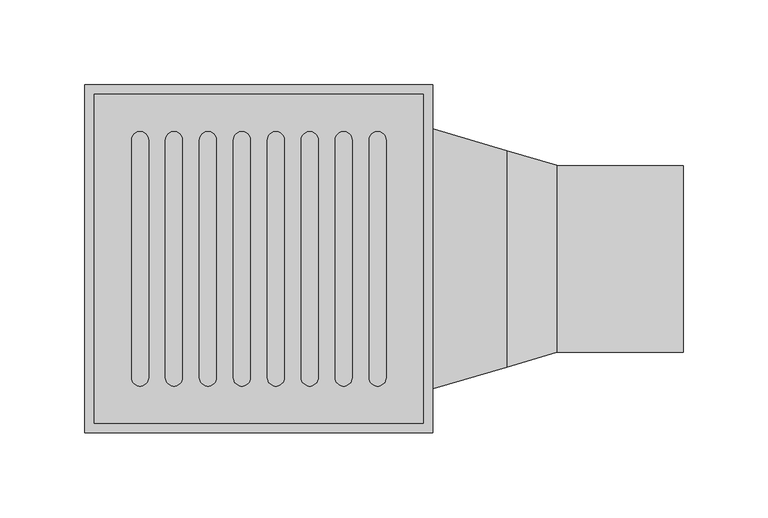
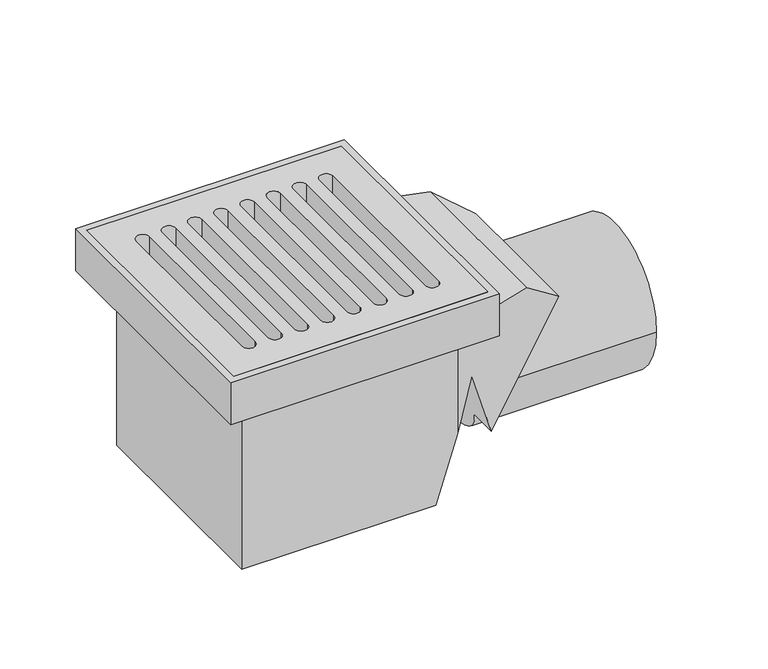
"""IFC4 building model written with IfcOpenShell, lengths in millimetres: sanitary terminal geometry, PF_ST_UN_57540_Siphon Fonte CADRE SORTIE DN100_ACO : PF_ST_UN_57540_Siphon Fonte CADRE SORTIE DN100_ACO."""

from ifc_helpers import new_model, si_unit, point, frame, frame_2d, origin, place, context, project, spatial, polyline, circle_curve, ellipse_curve, trimmed, segment, composite_curve, outline, extrude, source, transform, mapped, element, save
from ifc_brep_helpers import plane_surface, cylinder_surface, revolved_surface, advanced_brep


def sanitary_terminal_1e6d54b3(model_context):
    return source(origin(), model_context, "Body", "SolidModel", [
        extrude(outline(polyline([(97.0, 97.0), (97.0, -97.0), (-97.0, -97.0), (-97.0, 97.0), (97.0, 97.0)]), holes=[composite_curve([segment(trimmed(circle_curve(frame_2d((10.0, -70.0)), 5.0), [point((5.0, -70.0))], [point((15.0, -70.0))], True, "CARTESIAN"), True, "CONTINUOUS"), segment(polyline([(15.0, -70.0), (15.0, 70.0)]), True, "CONTINUOUS"), segment(trimmed(circle_curve(frame_2d((10.0, 70.0)), 5.0), [point((15.0, 70.0))], [point((5.0, 70.0))], True, "CARTESIAN"), True, "CONTINUOUS"), segment(polyline([(5.0, 70.0), (5.0, -70.0)]), True, "CONTINUOUS")], self_intersect=False), composite_curve([segment(trimmed(circle_curve(frame_2d((30.0, -70.0)), 5.0), [point((25.0, -70.0))], [point((35.0, -70.0))], True, "CARTESIAN"), True, "CONTINUOUS"), segment(polyline([(35.0, -70.0), (35.0, 70.0)]), True, "CONTINUOUS"), segment(trimmed(circle_curve(frame_2d((30.0, 70.0)), 5.0), [point((35.0, 70.0))], [point((25.0, 70.0))], True, "CARTESIAN"), True, "CONTINUOUS"), segment(polyline([(25.0, 70.0), (25.0, -70.0)]), True, "CONTINUOUS")], self_intersect=False), composite_curve([segment(trimmed(circle_curve(frame_2d((50.0, -70.0)), 5.0), [point((45.0, -70.0))], [point((55.0, -70.0))], True, "CARTESIAN"), True, "CONTINUOUS"), segment(polyline([(55.0, -70.0), (55.0, 70.0)]), True, "CONTINUOUS"), segment(trimmed(circle_curve(frame_2d((50.0, 70.0)), 5.0), [point((55.0, 70.0))], [point((45.0, 70.0))], True, "CARTESIAN"), True, "CONTINUOUS"), segment(polyline([(45.0, 70.0), (45.0, -70.0)]), True, "CONTINUOUS")], self_intersect=False), composite_curve([segment(trimmed(circle_curve(frame_2d((70.0, -70.0)), 5.0), [point((65.0, -70.0))], [point((75.0, -70.0))], True, "CARTESIAN"), True, "CONTINUOUS"), segment(polyline([(75.0, -70.0), (75.0, 70.0)]), True, "CONTINUOUS"), segment(trimmed(circle_curve(frame_2d((70.0, 70.0)), 5.0), [point((75.0, 70.0))], [point((65.0, 70.0))], True, "CARTESIAN"), True, "CONTINUOUS"), segment(polyline([(65.0, 70.0), (65.0, -70.0)]), True, "CONTINUOUS")], self_intersect=False), composite_curve([segment(polyline([(-5.0, -70.0), (-5.0, 70.0)]), True, "CONTINUOUS"), segment(trimmed(circle_curve(frame_2d((-10.0, 70.0)), 5.0), [point((-5.0, 70.0))], [point((-15.0, 70.0))], True, "CARTESIAN"), True, "CONTINUOUS"), segment(polyline([(-15.0, 70.0), (-15.0, -70.0)]), True, "CONTINUOUS"), segment(trimmed(circle_curve(frame_2d((-10.0, -70.0)), 5.0), [point((-15.0, -70.0))], [point((-5.0, -70.0))], True, "CARTESIAN"), True, "CONTINUOUS")], self_intersect=False), composite_curve([segment(polyline([(-25.0, -70.0), (-25.0, 70.0)]), True, "CONTINUOUS"), segment(trimmed(circle_curve(frame_2d((-30.0, 70.0)), 5.0), [point((-25.0, 70.0))], [point((-35.0, 70.0))], True, "CARTESIAN"), True, "CONTINUOUS"), segment(polyline([(-35.0, 70.0), (-35.0, -70.0)]), True, "CONTINUOUS"), segment(trimmed(circle_curve(frame_2d((-30.0, -70.0)), 5.0), [point((-35.0, -70.0))], [point((-25.0, -70.0))], True, "CARTESIAN"), True, "CONTINUOUS")], self_intersect=False), composite_curve([segment(polyline([(-45.0, -70.0), (-45.0, 70.0)]), True, "CONTINUOUS"), segment(trimmed(circle_curve(frame_2d((-50.0, 70.0)), 5.0), [point((-45.0, 70.0))], [point((-55.0, 70.0))], True, "CARTESIAN"), True, "CONTINUOUS"), segment(polyline([(-55.0, 70.0), (-55.0, -70.0)]), True, "CONTINUOUS"), segment(trimmed(circle_curve(frame_2d((-50.0, -70.0)), 5.0), [point((-55.0, -70.0))], [point((-45.0, -70.0))], True, "CARTESIAN"), True, "CONTINUOUS")], self_intersect=False), composite_curve([segment(polyline([(-65.0, -70.0), (-65.0, 70.0)]), True, "CONTINUOUS"), segment(trimmed(circle_curve(frame_2d((-70.0, 70.0)), 5.0), [point((-65.0, 70.0))], [point((-75.0, 70.0))], True, "CARTESIAN"), True, "CONTINUOUS"), segment(polyline([(-75.0, 70.0), (-75.0, -70.0)]), True, "CONTINUOUS"), segment(trimmed(circle_curve(frame_2d((-70.0, -70.0)), 5.0), [point((-75.0, -70.0))], [point((-65.0, -70.0))], True, "CARTESIAN"), True, "CONTINUOUS")], self_intersect=False)]), frame((0.0, 0.0, -19.0), z_axis=(0.0, 0.0, 1.0), x_axis=(1.0, 0.0, 0.0)), (0.0, 0.0, 1.0), 19.0),
        advanced_brep(
        [(102.5, 102.5, 0.0), (-102.5, 102.5, 0.0), (-102.5, -102.5, 0.0), (102.5, -102.5, 0.0), (97.0, 97.0, 0.0), (97.0, -97.0, 0.0), (-97.0, -97.0, 0.0), (-97.0, 97.0, 0.0), (102.5, 102.5, -34.0), (-102.5, 102.5, -34.0), (-102.5, -102.5, -34.0), (102.5, -102.5, -34.0), (102.5, -76.590619, -34.0), (102.5, 76.590619, -34.0), (97.0, 97.0, -19.0), (97.0, -97.0, -19.0), (-97.0, -97.0, -19.0), (-97.0, 97.0, -19.0), (82.5, 82.5, -34.0), (-82.5, 82.5, -34.0), (-82.5, -82.5, -34.0), (82.5, -82.5, -34.0), (-82.5, -82.5, -170.0), (-82.5, 82.5, -170.0), (65.48, 82.5, -170.0), (65.48, -82.5, -170.0), (82.5, 82.5, -117.888203), (82.5, -82.5, -117.888203), (146.0246808, 63.730423, -34.0), (175.5723545, 55.0, -56.4975663), (113.2373708, 73.4180583, -132.515546), (95.48, 78.6648118, -78.1460687), (95.48, -78.6648118, -78.1460687), (113.2373708, -73.4180583, -132.515546), (175.5723545, -55.0, -56.4975663), (146.0246808, -63.730423, -34.0), (175.5723545, 0.0, -56.4975663), (130.4721806, 55.0, -111.4975663), (113.2373708, 50.8256287, -132.515546), (113.2373708, -50.8256287, -132.515546), (130.4721806, -55.0, -111.4975663), (250.0, -55.0, -111.4975663), (250.0, 55.0, -111.4975663), (250.0, 50.0, -111.0146593), (250.0, -50.0, -111.0146593), (175.5723545, -50.0, -111.0146593), (175.5723545, 50.0, -111.0146593)],
        [
            (0, 1),
            (1, 2),
            (2, 3),
            (3, 0),
            (4, 5),
            (5, 6),
            (6, 7),
            (7, 4),
            (0, 8),
            (8, 9),
            (9, 1),
            (9, 10),
            (10, 2),
            (10, 11),
            (11, 3),
            (11, 12),
            (12, 13),
            (13, 8),
            (4, 14),
            (14, 15),
            (15, 5),
            (15, 16),
            (16, 6),
            (16, 17),
            (17, 7),
            (17, 14),
            (13, 18),
            (18, 19),
            (19, 20),
            (20, 21),
            (21, 12),
            (22, 23),
            (23, 24),
            (24, 25),
            (25, 22),
            (23, 19),
            (18, 26),
            (26, 24),
            (22, 20),
            (25, 27),
            (27, 21),
            (13, 28),
            (28, 29),
            (29, 30),
            (30, 31),
            (31, 26),
            (27, 32),
            (32, 33),
            (33, 34),
            (34, 35),
            (35, 12),
            (35, 28),
            (29, 36),
            (36, 37, ellipse_curve(frame((130.4721806, 0.0, -111.4975663), z_axis=(-0.7732665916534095, 0.0, 0.6340810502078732), x_axis=(0.6340810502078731, 0.0, 0.7732665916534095)), 71.1268282, 55.0)),
            (37, 38, ellipse_curve(frame((130.4721806, 0.0, -111.4975663), z_axis=(-0.7732665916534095, 0.0, 0.6340810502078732), x_axis=(0.6340810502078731, 0.0, 0.7732665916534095)), 71.1268282, 55.0)),
            (38, 30),
            (36, 34),
            (33, 39),
            (39, 40, ellipse_curve(frame((130.4721806, 0.0, -111.4975663), z_axis=(-0.7732665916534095, 0.0, 0.6340810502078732), x_axis=(0.6340810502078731, 0.0, 0.7732665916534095)), 71.1268282, 55.0)),
            (40, 36, ellipse_curve(frame((130.4721806, 0.0, -111.4975663), z_axis=(-0.7732665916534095, 0.0, 0.6340810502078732), x_axis=(0.6340810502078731, 0.0, 0.7732665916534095)), 71.1268282, 55.0)),
            (31, 32),
            (38, 39, ellipse_curve(frame((106.3727829, 0.0, -111.4975663), z_axis=(-0.9505844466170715, 0.0, -0.31046611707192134), x_axis=(0.31046611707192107, 0.0, -0.9505844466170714)), 57.8591415, 55.0)),
            (41, 42, circle_curve(frame((250.0, 0.0, -111.4975663), z_axis=(1.0, 0.0, 0.0), x_axis=(0.0, 1.0, 0.0)), 55.0)),
            (42, 41, circle_curve(frame((250.0, 0.0, -111.4975663), z_axis=(1.0, 0.0, 0.0), x_axis=(0.0, 1.0, 0.0)), 55.0)),
            (43, 44, circle_curve(frame((250.0, 0.0, -111.0146593), z_axis=(-1.0, 0.0, 0.0), x_axis=(0.0, 1.0, 0.0)), 50.0)),
            (44, 43, circle_curve(frame((250.0, 0.0, -111.0146593), z_axis=(-1.0, 0.0, 0.0), x_axis=(0.0, 1.0, 0.0)), 50.0)),
            (41, 40),
            (37, 42),
            (45, 46, circle_curve(frame((175.5723545, 0.0, -111.0146593), z_axis=(1.0, 0.0, 0.0), x_axis=(0.0, 1.0, 0.0)), 50.0)),
            (46, 45, circle_curve(frame((175.5723545, 0.0, -111.0146593), z_axis=(1.0, 0.0, 0.0), x_axis=(0.0, 1.0, 0.0)), 50.0)),
            (45, 44),
            (43, 46),
        ],
        [
            plane_surface(frame((-102.5, 102.5, 0.0), z_axis=(0.0, 0.0, 1.0), x_axis=(-1.0, 0.0, 0.0))),
            plane_surface(frame((102.5, 102.5, 0.0), z_axis=(0.0, 1.0, 0.0), x_axis=(0.0, 0.0, -1.0))),
            plane_surface(frame((-102.5, 102.5, 0.0), z_axis=(-1.0, 0.0, 0.0), x_axis=(0.0, 0.0, -1.0))),
            plane_surface(frame((-102.5, -102.5, 0.0), z_axis=(0.0, -1.0, 0.0), x_axis=(0.0, 0.0, -1.0))),
            plane_surface(frame((102.5, -102.5, 0.0), z_axis=(1.0, 0.0, 0.0), x_axis=(0.0, 0.0, -1.0))),
            plane_surface(frame((97.0, 97.0, 0.0), z_axis=(-1.0, 0.0, 0.0), x_axis=(0.0, 0.0, -1.0))),
            plane_surface(frame((97.0, -97.0, 0.0), z_axis=(0.0, 1.0, 0.0), x_axis=(0.0, 0.0, -1.0))),
            plane_surface(frame((-97.0, -97.0, 0.0), z_axis=(1.0, 0.0, 0.0), x_axis=(0.0, 0.0, -1.0))),
            plane_surface(frame((-97.0, 97.0, 0.0), z_axis=(0.0, -1.0, 0.0), x_axis=(0.0, 0.0, -1.0))),
            plane_surface(frame((-102.5, 102.5, -34.0), z_axis=(0.0, 0.0, -1.0), x_axis=(1.0, 0.0, 0.0))),
            plane_surface(frame((-102.5, 102.5, -19.0), z_axis=(0.0, 0.0, 1.0), x_axis=(-1.0, 0.0, 0.0))),
            plane_surface(frame((-82.5, 82.5, -170.0), z_axis=(0.0, 0.0, -1.0), x_axis=(1.0, 0.0, 0.0))),
            plane_surface(frame((82.5, 82.5, -19.0), z_axis=(0.0, 1.0, 0.0), x_axis=(0.0, 0.0, -1.0))),
            plane_surface(frame((-82.5, 82.5, -19.0), z_axis=(-1.0, 0.0, 0.0), x_axis=(0.0, 0.0, -1.0))),
            plane_surface(frame((-82.5, -82.5, -19.0), z_axis=(0.0, -1.0, 0.0), x_axis=(0.0, 0.0, -1.0))),
            plane_surface(frame((82.5, 82.5, -34.0), z_axis=(0.2833589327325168, 0.9590139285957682, 0.0), x_axis=(0.0, 0.0, -1.0))),
            plane_surface(frame((175.5723545, -55.0, -34.0), z_axis=(0.2833589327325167, -0.9590139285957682, 0.0), x_axis=(0.0, 0.0, -1.0))),
            plane_surface(frame((146.0246808, -82.5, -34.0), z_axis=(0.0, 0.0, 1.0), x_axis=(0.0, 1.0, 0.0))),
            plane_surface(frame((82.5, -82.5, -170.0), z_axis=(0.7732665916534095, 0.0, -0.6340810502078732), x_axis=(0.0, 1.0, 0.0))),
            plane_surface(frame((175.5723545, -82.5, -56.4975663), z_axis=(0.60578853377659, 0.0, 0.7956256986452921), x_axis=(0.0, 1.0, 0.0))),
            plane_surface(frame((95.48, -82.5, -78.1460687), z_axis=(0.9505844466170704, 0.0, -0.31046611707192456), x_axis=(0.0, 1.0, 0.0))),
            plane_surface(frame((125.48, -82.5, -170.0), z_axis=(-0.9505844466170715, 0.0, -0.31046611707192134), x_axis=(0.0, 1.0, 0.0))),
            plane_surface(frame((250.0, 55.0, -111.4975663), z_axis=(1.0, 0.0, 0.0), x_axis=(0.0, 0.0, 1.0))),
            cylinder_surface(frame((0.0, 0.0, -111.4975663), z_axis=(1.0, 0.0, 0.0), x_axis=(0.0, 1.0, 0.0)), 55.0),
            plane_surface(frame((175.5723545, 50.0, -111.0146593), z_axis=(1.0, 0.0, 0.0), x_axis=(0.0, 0.0, -1.0))),
            revolved_surface(polyline([(250.0, 50.0, -111.0146593), (175.5723545, 50.0, -111.0146593)]), (175.5723545, 0.0, -111.0146593), (1.0, 0.0, 0.0)),
        ],
        [
            (0, [[1, 2, 3, 4], [5, 6, 7, 8]]),
            (1, [[-1, 9, 10, 11]]),
            (2, [[-2, -11, 12, 13]]),
            (3, [[-3, -13, 14, 15]]),
            (4, [[-4, -15, 16, 17, 18, -9]]),
            (5, [[-5, 19, 20, 21]]),
            (6, [[-6, -21, 22, 23]]),
            (7, [[-7, -23, 24, 25]]),
            (8, [[-8, -25, 26, -19]]),
            (9, [[-14, -12, -10, -18, 27, 28, 29, 30, 31, -16]]),
            (10, [[-20, -26, -24, -22]]),
            (11, [[32, 33, 34, 35]]),
            (12, [[36, -28, 37, 38, -33]]),
            (13, [[-32, 39, -29, -36]]),
            (14, [[-39, -35, 40, 41, -30]]),
            (15, [[-27, 42, 43, 44, 45, 46, -37]]),
            (16, [[-31, -41, 47, 48, 49, 50, 51]]),
            (17, [[-17, -51, 52, -42]]),
            (18, [[53, 54, 55, 56, -44]]),
            (18, [[57, -49, 58, 59, 60]]),
            (19, [[-52, -50, -57, -53, -43]]),
            (20, [[61, -47, -40, -34, -38, -46]]),
            (21, [[-61, -45, -56, 62, -58, -48]]),
            (22, [[63, 64], [65, 66]]),
            (23, [[-63, 67, -59, -62, -55, 68]]),
            (23, [[-64, -68, -54, -60, -67]]),
            (24, [[69, 70]]),
            (25, [[-69, 71, -65, 72]]),
            (25, [[-70, -72, -66, -71]]),
        ],
    ),
    ])


if __name__ == "__main__":
    model = new_model("IFC4")
    model_context = context("Model", 3, world=origin())
    ifc_project = project(units=[si_unit("LENGTHUNIT", "METRE", prefix="MILLI")], contexts=[model_context])
    site = spatial("IfcSite", under=ifc_project)
    building = spatial("IfcBuilding", under=site)
    placement = place(None, origin())
    sanitary_terminal_shape = sanitary_terminal_1e6d54b3(model_context)
    element("IfcSanitaryTerminal", 1, ObjectType="PF_ST_UN_57540_Siphon Fonte CADRE SORTIE DN100_ACO : PF_ST_UN_57540_Siphon Fonte CADRE SORTIE DN100_ACO", at=placement, inside=building, context=model_context, shape_type="MappedRepresentation", body=[
        mapped(sanitary_terminal_shape, transform((0.0, 0.0, 0.0), x_axis=(1.0, 0.0, 0.0), y_axis=(0.0, 1.0, 0.0), z_axis=(0.0, 0.0, 1.0))),
    ])
    save(model, "model.ifc")
